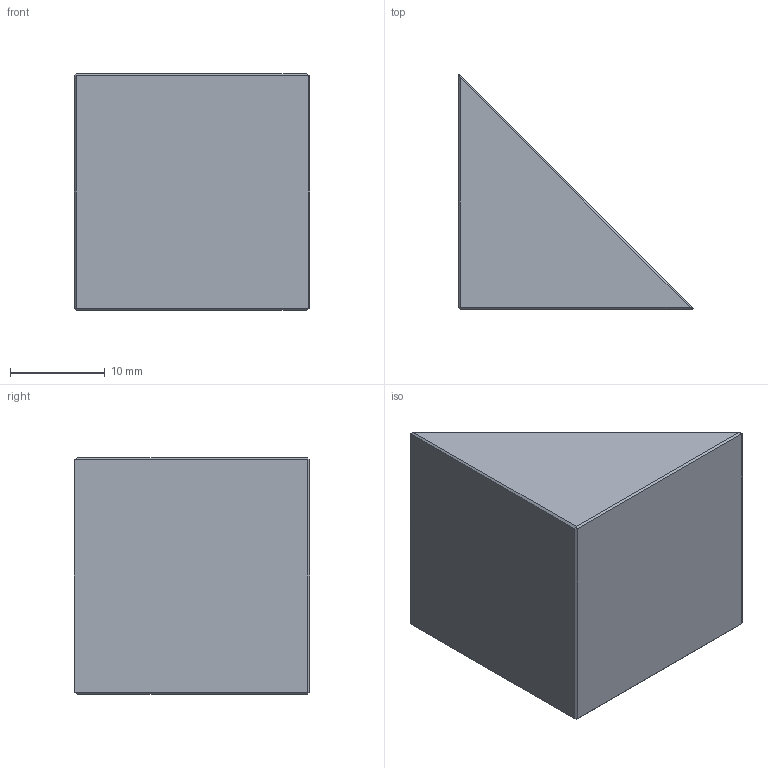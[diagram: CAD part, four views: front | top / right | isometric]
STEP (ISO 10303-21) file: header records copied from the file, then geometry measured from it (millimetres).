
FILE_DESCRIPTION (( 'STEP AP203' ), '1' );
FILE_NAME ('13596-E0W.STEP', '2012-08-16T20:23:39', ( 'Admin' ), ( '' ), 'SwSTEP 2.0', 'SolidWorks 2011', '' );
FILE_SCHEMA (( 'CONFIG_CONTROL_DESIGN' ));
Length unit declared in the file: millimetre
Products named in the file (1): 13596-E0W
Bounding box: 24.9 x 24.86 x 25 mm (x, y, z)
Surface area: 2725.8 mm2 (no closed solid volume)
Topology: 0 solids, 1 shells, 20 faces, 36 edges, 18 vertices
Faces by surface type: plane 20
Entity records: 533 total; most frequent: DIRECTION 78, CARTESIAN_POINT 75, ORIENTED_EDGE 72, EDGE_CURVE 36, LINE 36, VECTOR 36, AXIS2_PLACEMENT_3D 21, EDGE_LOOP 20
